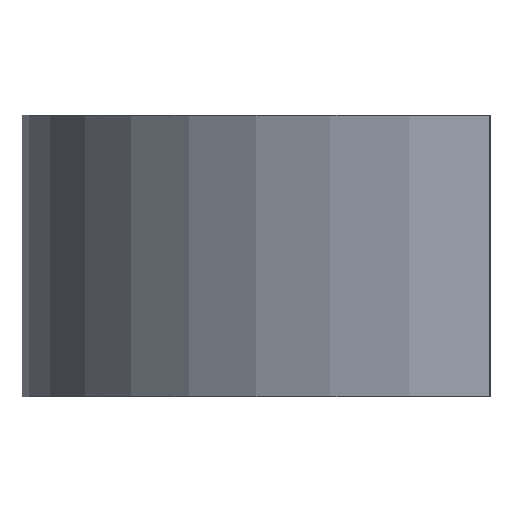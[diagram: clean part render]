
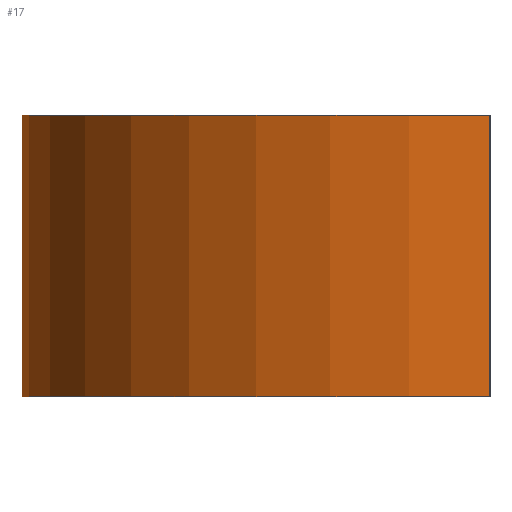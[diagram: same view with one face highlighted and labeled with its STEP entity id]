
A CAD part, front view. The second image highlights one B-rep face of the part: STEP entity #17.
In plain terms, the highlighted cylindrical face has radius 4.99 mm (diameter 9.98 mm), a partial arc.
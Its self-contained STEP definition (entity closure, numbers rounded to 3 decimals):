
#17 = ADVANCED_FACE('',(#18),#33,.T.);
#18 = FACE_BOUND('',#19,.T.);
#19 = EDGE_LOOP('',(#20,#56,#82,#111));
#20 = ORIENTED_EDGE('',*,*,#21,.F.);
#21 = EDGE_CURVE('',#22,#24,#26,.T.);
#22 = VERTEX_POINT('',#23);
#23 = CARTESIAN_POINT('',(0.,4.99,9.9));
#24 = VERTEX_POINT('',#25);
#25 = CARTESIAN_POINT('',(0.,-4.99,9.9));
#26 = SURFACE_CURVE('',#27,(#32,#44),.PCURVE_S1.);
#27 = CIRCLE('',#28,4.99);
#28 = AXIS2_PLACEMENT_3D('',#29,#30,#31);
#29 = CARTESIAN_POINT('',(0.,0.,9.9));
#30 = DIRECTION('',(0.,0.,1.));
#31 = DIRECTION('',(1.,0.,-0.));
#32 = PCURVE('',#33,#38);
#33 = CYLINDRICAL_SURFACE('',#34,4.99);
#34 = AXIS2_PLACEMENT_3D('',#35,#36,#37);
#35 = CARTESIAN_POINT('',(0.,0.,6.9));
#36 = DIRECTION('',(0.,0.,1.));
#37 = DIRECTION('',(1.,0.,-0.));
#38 = DEFINITIONAL_REPRESENTATION('',(#39),#43);
#39 = LINE('',#40,#41);
#40 = CARTESIAN_POINT('',(0.,3.));
#41 = VECTOR('',#42,1.);
#42 = DIRECTION('',(1.,0.));
#43 = ( GEOMETRIC_REPRESENTATION_CONTEXT(2) 
PARAMETRIC_REPRESENTATION_CONTEXT() REPRESENTATION_CONTEXT('2D SPACE',''
  ) );
#44 = PCURVE('',#45,#50);
#45 = PLANE('',#46);
#46 = AXIS2_PLACEMENT_3D('',#47,#48,#49);
#47 = CARTESIAN_POINT('',(0.,0.,9.9));
#48 = DIRECTION('',(0.,0.,1.));
#49 = DIRECTION('',(1.,0.,-0.));
#50 = DEFINITIONAL_REPRESENTATION('',(#51),#55);
#51 = CIRCLE('',#52,4.99);
#52 = AXIS2_PLACEMENT_2D('',#53,#54);
#53 = CARTESIAN_POINT('',(0.,0.));
#54 = DIRECTION('',(1.,0.));
#55 = ( GEOMETRIC_REPRESENTATION_CONTEXT(2) 
PARAMETRIC_REPRESENTATION_CONTEXT() REPRESENTATION_CONTEXT('2D SPACE',''
  ) );
#56 = ORIENTED_EDGE('',*,*,#57,.F.);
#57 = EDGE_CURVE('',#58,#22,#60,.T.);
#58 = VERTEX_POINT('',#59);
#59 = CARTESIAN_POINT('',(0.,4.99,6.9));
#60 = SURFACE_CURVE('',#61,(#65,#71),.PCURVE_S1.);
#61 = LINE('',#62,#63);
#62 = CARTESIAN_POINT('',(0.,4.99,6.9));
#63 = VECTOR('',#64,1.);
#64 = DIRECTION('',(0.,0.,1.));
#65 = PCURVE('',#33,#66);
#66 = DEFINITIONAL_REPRESENTATION('',(#67),#70);
#67 = B_SPLINE_CURVE_WITH_KNOTS('',1,(#68,#69),.UNSPECIFIED.,.F.,.F.,(2,
    2),(0.,3.),.PIECEWISE_BEZIER_KNOTS.);
#68 = CARTESIAN_POINT('',(1.571,0.));
#69 = CARTESIAN_POINT('',(1.571,3.));
#70 = ( GEOMETRIC_REPRESENTATION_CONTEXT(2) 
PARAMETRIC_REPRESENTATION_CONTEXT() REPRESENTATION_CONTEXT('2D SPACE',''
  ) );
#71 = PCURVE('',#72,#77);
#72 = PLANE('',#73);
#73 = AXIS2_PLACEMENT_3D('',#74,#75,#76);
#74 = CARTESIAN_POINT('',(0.,-50.,-50.));
#75 = DIRECTION('',(1.,0.,0.));
#76 = DIRECTION('',(0.,0.,1.));
#77 = DEFINITIONAL_REPRESENTATION('',(#78),#81);
#78 = B_SPLINE_CURVE_WITH_KNOTS('',1,(#79,#80),.UNSPECIFIED.,.F.,.F.,(2,
    2),(0.,3.),.PIECEWISE_BEZIER_KNOTS.);
#79 = CARTESIAN_POINT('',(56.9,-54.99));
#80 = CARTESIAN_POINT('',(59.9,-54.99));
#81 = ( GEOMETRIC_REPRESENTATION_CONTEXT(2) 
PARAMETRIC_REPRESENTATION_CONTEXT() REPRESENTATION_CONTEXT('2D SPACE',''
  ) );
#82 = ORIENTED_EDGE('',*,*,#83,.T.);
#83 = EDGE_CURVE('',#58,#84,#86,.T.);
#84 = VERTEX_POINT('',#85);
#85 = CARTESIAN_POINT('',(0.,-4.99,6.9));
#86 = SURFACE_CURVE('',#87,(#92,#99),.PCURVE_S1.);
#87 = CIRCLE('',#88,4.99);
#88 = AXIS2_PLACEMENT_3D('',#89,#90,#91);
#89 = CARTESIAN_POINT('',(0.,0.,6.9));
#90 = DIRECTION('',(0.,0.,1.));
#91 = DIRECTION('',(1.,0.,-0.));
#92 = PCURVE('',#33,#93);
#93 = DEFINITIONAL_REPRESENTATION('',(#94),#98);
#94 = LINE('',#95,#96);
#95 = CARTESIAN_POINT('',(0.,0.));
#96 = VECTOR('',#97,1.);
#97 = DIRECTION('',(1.,0.));
#98 = ( GEOMETRIC_REPRESENTATION_CONTEXT(2) 
PARAMETRIC_REPRESENTATION_CONTEXT() REPRESENTATION_CONTEXT('2D SPACE',''
  ) );
#99 = PCURVE('',#100,#105);
#100 = PLANE('',#101);
#101 = AXIS2_PLACEMENT_3D('',#102,#103,#104);
#102 = CARTESIAN_POINT('',(0.,0.,6.9));
#103 = DIRECTION('',(0.,0.,1.));
#104 = DIRECTION('',(1.,0.,-0.));
#105 = DEFINITIONAL_REPRESENTATION('',(#106),#110);
#106 = CIRCLE('',#107,4.99);
#107 = AXIS2_PLACEMENT_2D('',#108,#109);
#108 = CARTESIAN_POINT('',(0.,0.));
#109 = DIRECTION('',(1.,0.));
#110 = ( GEOMETRIC_REPRESENTATION_CONTEXT(2) 
PARAMETRIC_REPRESENTATION_CONTEXT() REPRESENTATION_CONTEXT('2D SPACE',''
  ) );
#111 = ORIENTED_EDGE('',*,*,#112,.T.);
#112 = EDGE_CURVE('',#84,#24,#113,.T.);
#113 = SURFACE_CURVE('',#114,(#118,#124),.PCURVE_S1.);
#114 = LINE('',#115,#116);
#115 = CARTESIAN_POINT('',(0.,-4.99,6.9));
#116 = VECTOR('',#117,1.);
#117 = DIRECTION('',(0.,0.,1.));
#118 = PCURVE('',#33,#119);
#119 = DEFINITIONAL_REPRESENTATION('',(#120),#123);
#120 = B_SPLINE_CURVE_WITH_KNOTS('',1,(#121,#122),.UNSPECIFIED.,.F.,.F.,
  (2,2),(0.,3.),.PIECEWISE_BEZIER_KNOTS.);
#121 = CARTESIAN_POINT('',(4.712,0.));
#122 = CARTESIAN_POINT('',(4.712,3.));
#123 = ( GEOMETRIC_REPRESENTATION_CONTEXT(2) 
PARAMETRIC_REPRESENTATION_CONTEXT() REPRESENTATION_CONTEXT('2D SPACE',''
  ) );
#124 = PCURVE('',#125,#130);
#125 = PLANE('',#126);
#126 = AXIS2_PLACEMENT_3D('',#127,#128,#129);
#127 = CARTESIAN_POINT('',(0.,-50.,-50.));
#128 = DIRECTION('',(1.,0.,0.));
#129 = DIRECTION('',(0.,0.,1.));
#130 = DEFINITIONAL_REPRESENTATION('',(#131),#134);
#131 = B_SPLINE_CURVE_WITH_KNOTS('',1,(#132,#133),.UNSPECIFIED.,.F.,.F.,
  (2,2),(0.,3.),.PIECEWISE_BEZIER_KNOTS.);
#132 = CARTESIAN_POINT('',(56.9,-45.01));
#133 = CARTESIAN_POINT('',(59.9,-45.01));
#134 = ( GEOMETRIC_REPRESENTATION_CONTEXT(2) 
PARAMETRIC_REPRESENTATION_CONTEXT() REPRESENTATION_CONTEXT('2D SPACE',''
  ) );
